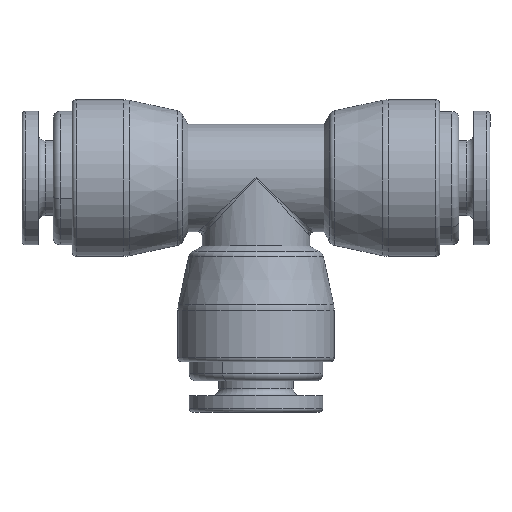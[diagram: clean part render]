
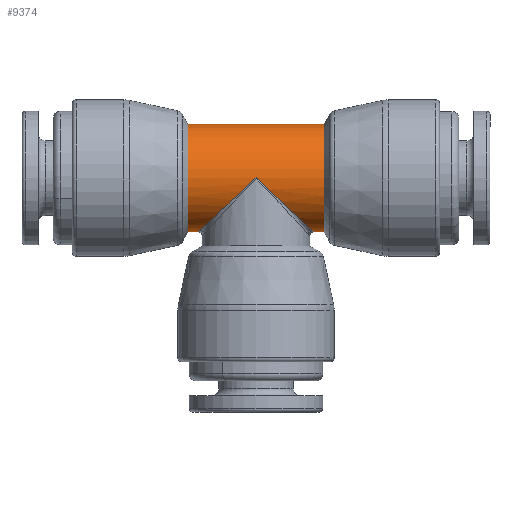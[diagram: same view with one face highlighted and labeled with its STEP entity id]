
A CAD part, top view. The second image highlights one B-rep face of the part: STEP entity #9374.
In plain terms, the highlighted cylindrical face has radius 3.95 mm (diameter 7.9 mm), a partial arc.
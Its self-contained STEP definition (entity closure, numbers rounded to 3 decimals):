
#62 = VERTEX_POINT ( 'NONE', #7281 ) ;
#793 = DIRECTION ( 'NONE',  ( 0., 1., 0. ) ) ;
#929 = ORIENTED_EDGE ( 'NONE', *, *, #8998, .F. ) ;
#946 = DIRECTION ( 'NONE',  ( -1., 0., 0. ) ) ;
#967 = CIRCLE ( 'NONE', #1161, 3.95 ) ;
#971 = EDGE_CURVE ( 'NONE', #2814, #62, #967, .T. ) ;
#1144 = DIRECTION ( 'NONE',  ( 1., 0., 0. ) ) ;
#1156 = EDGE_CURVE ( 'NONE', #2604, #3274, #5281, .T. ) ;
#1161 = AXIS2_PLACEMENT_3D ( 'NONE', #10254, #946, #8417 ) ;
#1494 = CARTESIAN_POINT ( 'NONE',  ( 0., 0., 3.95 ) ) ;
#1637 =( BOUNDED_CURVE ( )  B_SPLINE_CURVE ( 3, ( #1494, #2405, #2476, #6228 ),
 .UNSPECIFIED., .F., .T. ) 
 B_SPLINE_CURVE_WITH_KNOTS ( ( 4, 4 ),
 ( 4.712, 6.283 ),
 .UNSPECIFIED. ) 
 CURVE ( )  GEOMETRIC_REPRESENTATION_ITEM ( )  RATIONAL_B_SPLINE_CURVE ( ( 1., 0.805, 0.805, 1. ) ) 
 REPRESENTATION_ITEM ( '' )  );
#1966 =( BOUNDED_CURVE ( )  B_SPLINE_CURVE ( 3, ( #5863, #5981, #4242, #11449 ),
 .UNSPECIFIED., .F., .T. ) 
 B_SPLINE_CURVE_WITH_KNOTS ( ( 4, 4 ),
 ( 3.142, 4.712 ),
 .UNSPECIFIED. ) 
 CURVE ( )  GEOMETRIC_REPRESENTATION_ITEM ( )  RATIONAL_B_SPLINE_CURVE ( ( 1., 0.805, 0.805, 1. ) ) 
 REPRESENTATION_ITEM ( '' )  );
#2110 = VERTEX_POINT ( 'NONE', #3251 ) ;
#2329 = ORIENTED_EDGE ( 'NONE', *, *, #11875, .T. ) ;
#2405 = CARTESIAN_POINT ( 'NONE',  ( 2.49, -2.314, 3.95 ) ) ;
#2476 = CARTESIAN_POINT ( 'NONE',  ( 4.25, -3.95, 2.314 ) ) ;
#2586 = DIRECTION ( 'NONE',  ( 1., 0., 0. ) ) ;
#2604 = VERTEX_POINT ( 'NONE', #11799 ) ;
#2814 = VERTEX_POINT ( 'NONE', #5792 ) ;
#2859 = CARTESIAN_POINT ( 'NONE',  ( 5., -3.95, 0. ) ) ;
#3251 = CARTESIAN_POINT ( 'NONE',  ( 4.25, -3.95, 0. ) ) ;
#3274 = VERTEX_POINT ( 'NONE', #2859 ) ;
#3457 = CARTESIAN_POINT ( 'NONE',  ( 13.5, 3.95, 0. ) ) ;
#4050 = ORIENTED_EDGE ( 'NONE', *, *, #5996, .T. ) ;
#4120 = CARTESIAN_POINT ( 'NONE',  ( 13.5, -3.95, 0. ) ) ;
#4178 = LINE ( 'NONE', #4120, #11448 ) ;
#4242 = CARTESIAN_POINT ( 'NONE',  ( -2.49, -2.314, 3.95 ) ) ;
#4636 = ORIENTED_EDGE ( 'NONE', *, *, #971, .F. ) ;
#5201 = ORIENTED_EDGE ( 'NONE', *, *, #9898, .T. ) ;
#5246 = CARTESIAN_POINT ( 'NONE',  ( 5., 0., 0. ) ) ;
#5281 = CIRCLE ( 'NONE', #12077, 3.95 ) ;
#5367 = DIRECTION ( 'NONE',  ( 1., 0., 0. ) ) ;
#5460 = EDGE_CURVE ( 'NONE', #8954, #2110, #1637, .T. ) ;
#5792 = CARTESIAN_POINT ( 'NONE',  ( -5., -3.95, 0. ) ) ;
#5796 = LINE ( 'NONE', #9517, #7741 ) ;
#5863 = CARTESIAN_POINT ( 'NONE',  ( -4.25, -3.95, 0. ) ) ;
#5930 = CARTESIAN_POINT ( 'NONE',  ( -4.25, -3.95, 0. ) ) ;
#5979 = CARTESIAN_POINT ( 'NONE',  ( 0., 0., 3.95 ) ) ;
#5981 = CARTESIAN_POINT ( 'NONE',  ( -4.25, -3.95, 2.314 ) ) ;
#5996 = EDGE_CURVE ( 'NONE', #11596, #8954, #1966, .T. ) ;
#6052 = DIRECTION ( 'NONE',  ( 1., 0., 0. ) ) ;
#6192 = VECTOR ( 'NONE', #9698, 1000. ) ;
#6199 = AXIS2_PLACEMENT_3D ( 'NONE', #11002, #2586, #793 ) ;
#6228 = CARTESIAN_POINT ( 'NONE',  ( 4.25, -3.95, 0. ) ) ;
#7281 = CARTESIAN_POINT ( 'NONE',  ( -5., 3.95, 0. ) ) ;
#7408 = ORIENTED_EDGE ( 'NONE', *, *, #5460, .T. ) ;
#7741 = VECTOR ( 'NONE', #1144, 1000. ) ;
#7838 = EDGE_LOOP ( 'NONE', ( #4636, #2329, #4050, #7408, #5201, #9049, #929 ) ) ;
#8417 = DIRECTION ( 'NONE',  ( 0., -1., 0. ) ) ;
#8954 = VERTEX_POINT ( 'NONE', #5979 ) ;
#8998 = EDGE_CURVE ( 'NONE', #62, #2604, #9010, .T. ) ;
#9010 = LINE ( 'NONE', #3457, #6192 ) ;
#9049 = ORIENTED_EDGE ( 'NONE', *, *, #1156, .F. ) ;
#9374 = ADVANCED_FACE ( 'NONE', ( #10836 ), #11842, .T. ) ;
#9517 = CARTESIAN_POINT ( 'NONE',  ( 13.5, -3.95, 0. ) ) ;
#9698 = DIRECTION ( 'NONE',  ( 1., 0., 0. ) ) ;
#9898 = EDGE_CURVE ( 'NONE', #2110, #3274, #4178, .T. ) ;
#10254 = CARTESIAN_POINT ( 'NONE',  ( -5., 0., 0. ) ) ;
#10836 = FACE_OUTER_BOUND ( 'NONE', #7838, .T. ) ;
#11002 = CARTESIAN_POINT ( 'NONE',  ( 13.5, 0., 0. ) ) ;
#11448 = VECTOR ( 'NONE', #6052, 1000. ) ;
#11449 = CARTESIAN_POINT ( 'NONE',  ( 0., 0., 3.95 ) ) ;
#11596 = VERTEX_POINT ( 'NONE', #5930 ) ;
#11799 = CARTESIAN_POINT ( 'NONE',  ( 5., 3.95, 0. ) ) ;
#11842 = CYLINDRICAL_SURFACE ( 'NONE', #6199, 3.95 ) ;
#11875 = EDGE_CURVE ( 'NONE', #2814, #11596, #5796, .T. ) ;
#11923 = DIRECTION ( 'NONE',  ( 0., 1., 0. ) ) ;
#12077 = AXIS2_PLACEMENT_3D ( 'NONE', #5246, #5367, #11923 ) ;
